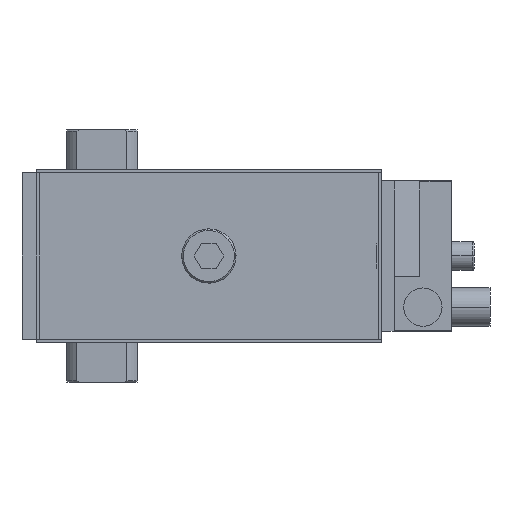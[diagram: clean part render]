
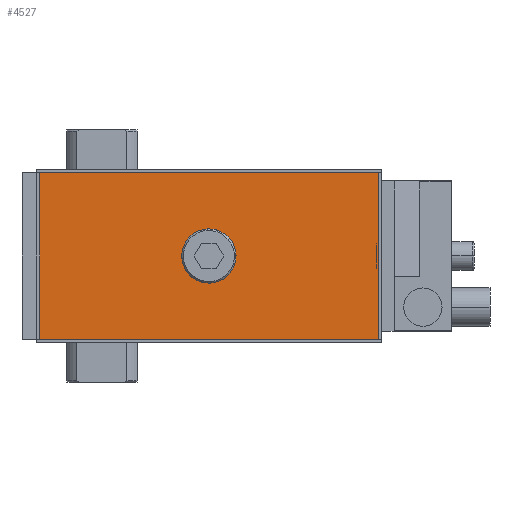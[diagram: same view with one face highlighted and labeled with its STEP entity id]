
A CAD part, left-side view. The second image highlights one B-rep face of the part: STEP entity #4527.
In plain terms, the highlighted planar face has unit normal (-1, 0, 0).
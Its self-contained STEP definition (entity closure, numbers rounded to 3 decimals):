
#463 = DIRECTION ( 'NONE',  ( 0., 0., -1. ) ) ;
#878 = ORIENTED_EDGE ( 'NONE', *, *, #1795, .T. ) ;
#913 = CARTESIAN_POINT ( 'NONE',  ( -276.5, -26.041, 4.075 ) ) ;
#992 = VERTEX_POINT ( 'NONE', #913 ) ;
#1006 = ORIENTED_EDGE ( 'NONE', *, *, #8414, .T. ) ;
#1016 = CARTESIAN_POINT ( 'NONE',  ( -276.5, -33.5, 26. ) ) ;
#1136 = CIRCLE ( 'NONE', #6916, 8.5 ) ;
#1194 = ORIENTED_EDGE ( 'NONE', *, *, #4533, .T. ) ;
#1380 = DIRECTION ( 'NONE',  ( -1., 0., 0. ) ) ;
#1381 = AXIS2_PLACEMENT_3D ( 'NONE', #7140, #4531, #5802 ) ;
#1488 = EDGE_CURVE ( 'NONE', #3845, #2175, #8262, .T. ) ;
#1594 = LINE ( 'NONE', #1016, #5728 ) ;
#1776 = DIRECTION ( 'NONE',  ( 0., 1., 0. ) ) ;
#1795 = EDGE_CURVE ( 'NONE', #5884, #7495, #6736, .T. ) ;
#2175 = VERTEX_POINT ( 'NONE', #8662 ) ;
#2185 = DIRECTION ( 'NONE',  ( 0., -1., 0. ) ) ;
#2495 = CARTESIAN_POINT ( 'NONE',  ( -276.5, -40.959, -4.075 ) ) ;
#2892 = DIRECTION ( 'NONE',  ( -1., 0., 0. ) ) ;
#3026 = ORIENTED_EDGE ( 'NONE', *, *, #6931, .F. ) ;
#3125 = FACE_OUTER_BOUND ( 'NONE', #7175, .T. ) ;
#3295 = VECTOR ( 'NONE', #6651, 1000. ) ;
#3407 = CIRCLE ( 'NONE', #8521, 8.5 ) ;
#3490 = CARTESIAN_POINT ( 'NONE',  ( -276.5, -33.5, 0. ) ) ;
#3492 = CARTESIAN_POINT ( 'NONE',  ( -276.5, -86.5, -26. ) ) ;
#3715 = VERTEX_POINT ( 'NONE', #2495 ) ;
#3845 = VERTEX_POINT ( 'NONE', #4968 ) ;
#4185 = EDGE_LOOP ( 'NONE', ( #3026, #4373 ) ) ;
#4373 = ORIENTED_EDGE ( 'NONE', *, *, #7224, .F. ) ;
#4402 = PLANE ( 'NONE',  #1381 ) ;
#4527 = ADVANCED_FACE ( 'NONE', ( #3125, #5888 ), #4402, .T. ) ;
#4531 = DIRECTION ( 'NONE',  ( -1., 0., 0. ) ) ;
#4533 = EDGE_CURVE ( 'NONE', #7495, #3845, #1594, .T. ) ;
#4735 = CARTESIAN_POINT ( 'NONE',  ( -276.5, -86.5, 26. ) ) ;
#4968 = CARTESIAN_POINT ( 'NONE',  ( -276.5, 19.5, 26. ) ) ;
#5471 = VECTOR ( 'NONE', #463, 1000. ) ;
#5728 = VECTOR ( 'NONE', #1776, 1000. ) ;
#5802 = DIRECTION ( 'NONE',  ( 0., 0., 1. ) ) ;
#5884 = VERTEX_POINT ( 'NONE', #3492 ) ;
#5888 = FACE_BOUND ( 'NONE', #4185, .T. ) ;
#6193 = VECTOR ( 'NONE', #6244, 1000. ) ;
#6244 = DIRECTION ( 'NONE',  ( 0., -1., 0. ) ) ;
#6520 = ORIENTED_EDGE ( 'NONE', *, *, #1488, .T. ) ;
#6651 = DIRECTION ( 'NONE',  ( 0., 0., 1. ) ) ;
#6736 = LINE ( 'NONE', #8857, #3295 ) ;
#6841 = CARTESIAN_POINT ( 'NONE',  ( -276.5, 19.5, 0. ) ) ;
#6916 = AXIS2_PLACEMENT_3D ( 'NONE', #3490, #2892, #2185 ) ;
#6931 = EDGE_CURVE ( 'NONE', #3715, #992, #3407, .T. ) ;
#6956 = LINE ( 'NONE', #7513, #6193 ) ;
#7140 = CARTESIAN_POINT ( 'NONE',  ( -276.5, 0., 0. ) ) ;
#7175 = EDGE_LOOP ( 'NONE', ( #1006, #878, #1194, #6520 ) ) ;
#7224 = EDGE_CURVE ( 'NONE', #992, #3715, #1136, .T. ) ;
#7495 = VERTEX_POINT ( 'NONE', #4735 ) ;
#7513 = CARTESIAN_POINT ( 'NONE',  ( -276.5, -33.5, -26. ) ) ;
#7715 = DIRECTION ( 'NONE',  ( 0., -1., 0. ) ) ;
#7757 = CARTESIAN_POINT ( 'NONE',  ( -276.5, -33.5, 0. ) ) ;
#8262 = LINE ( 'NONE', #6841, #5471 ) ;
#8414 = EDGE_CURVE ( 'NONE', #2175, #5884, #6956, .T. ) ;
#8521 = AXIS2_PLACEMENT_3D ( 'NONE', #7757, #1380, #7715 ) ;
#8662 = CARTESIAN_POINT ( 'NONE',  ( -276.5, 19.5, -26. ) ) ;
#8857 = CARTESIAN_POINT ( 'NONE',  ( -276.5, -86.5, 0. ) ) ;
